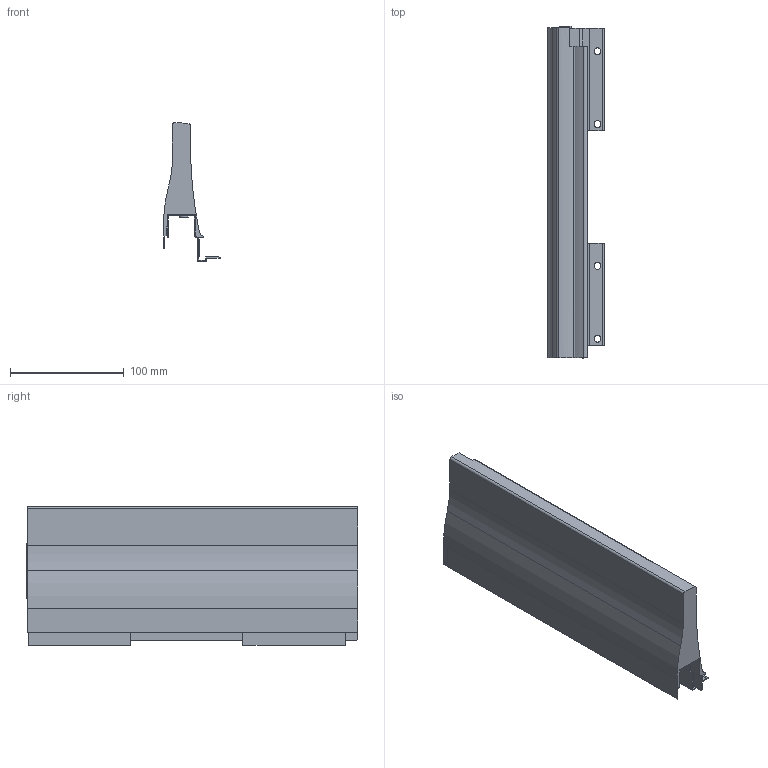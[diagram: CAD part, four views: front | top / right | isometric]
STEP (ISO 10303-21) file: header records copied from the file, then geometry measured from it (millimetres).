
FILE_DESCRIPTION (( 'STEP AP214' ), '1' );
FILE_NAME ('XP Standard Dekorseite H127 NL300 LI .step', '2010-09-21T09:46:21', ( 'grass' ), ( '' ), 'SwSTEP 2.0', 'SolidWorks 2010', '' );
FILE_SCHEMA (( 'AUTOMOTIVE_DESIGN' ));
Length unit declared in the file: millimetre
Products named in the file (1): XP Standard Dekorseite H127 NL300 LI 
Bounding box: 50.01 x 291.5 x 122 mm (x, y, z)
Volume: 500988.4 mm3; surface area: 117389.1 mm2
Topology: 1 solids, 1 shells, 107 faces, 312 edges, 204 vertices
Faces by surface type: plane 81, cylinder 26
Entity records: 3562 total; most frequent: CARTESIAN_POINT 624, ORIENTED_EDGE 624, DIRECTION 582, EDGE_CURVE 312, LINE 258, VECTOR 258, VERTEX_POINT 204, AXIS2_PLACEMENT_3D 162
